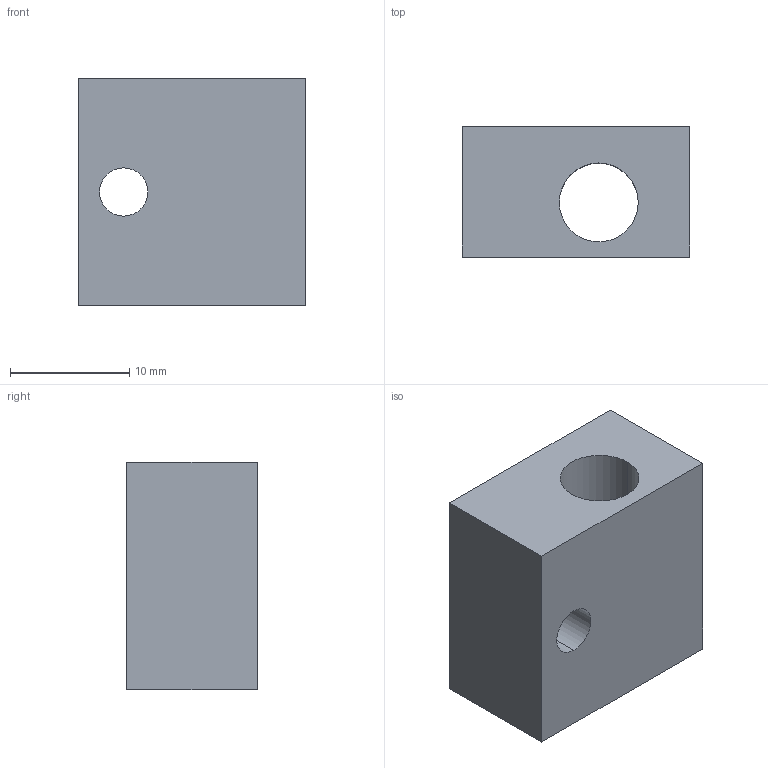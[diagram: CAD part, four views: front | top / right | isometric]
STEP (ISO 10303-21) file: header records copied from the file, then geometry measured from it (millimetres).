
FILE_DESCRIPTION (( 'STEP AP203' ), '1' );
FILE_NAME ('269-18-311.STEP', '2020-03-02T22:24:31', ( '' ), ( '' ), 'SwSTEP 2.0', 'SolidWorks 2017', '' );
FILE_SCHEMA (( 'CONFIG_CONTROL_DESIGN' ));
Length unit declared in the file: inch
Products named in the file (1): 269-18-311
Bounding box: 19.05 x 10.92 x 19.05 mm (x, y, z)
Volume: 3164.6 mm3; surface area: 1991.8 mm2
Topology: 1 solids, 1 shells, 12 faces, 28 edges, 18 vertices
Faces by surface type: plane 6, cylinder 4, cone 2
Entity records: 433 total; most frequent: DIRECTION 64, CARTESIAN_POINT 59, ORIENTED_EDGE 56, EDGE_CURVE 28, AXIS2_PLACEMENT_3D 23, LINE 18, VERTEX_POINT 18, VECTOR 18
